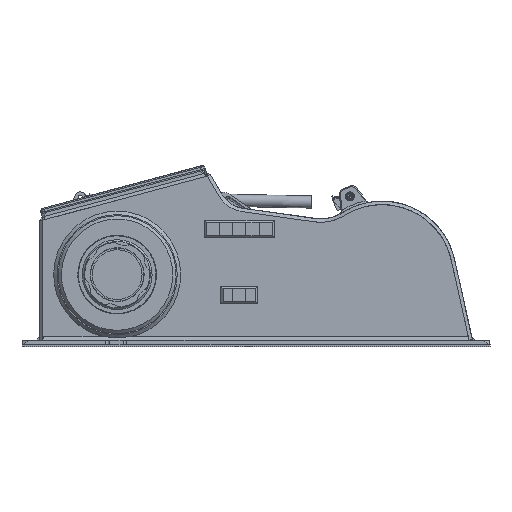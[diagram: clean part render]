
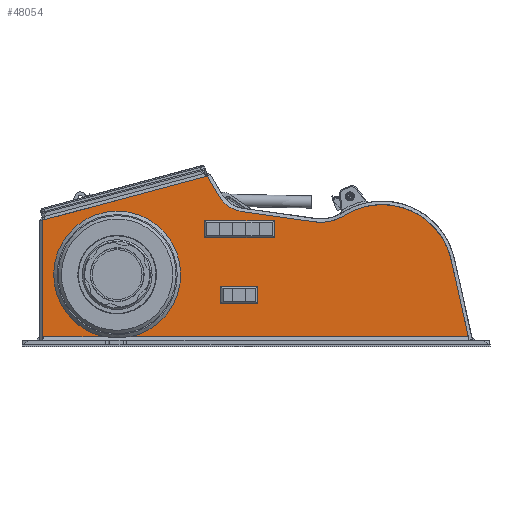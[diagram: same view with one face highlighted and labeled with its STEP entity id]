
A CAD part, left-side view. The second image highlights one B-rep face of the part: STEP entity #48054.
In plain terms, the highlighted planar face has unit normal (-1, 0, 0).
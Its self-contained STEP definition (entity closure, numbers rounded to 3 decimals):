
#2072=FACE_BOUND('',#5633,.T.);
#2073=FACE_BOUND('',#5634,.T.);
#2950=FACE_OUTER_BOUND('',#5632,.T.);
#5632=EDGE_LOOP('',(#32350,#32351,#32352,#32353,#32354,#32355,#32356,#32357,
#32358,#32359,#32360,#32361,#32362,#32363));
#5633=EDGE_LOOP('',(#32364,#32365,#32366,#32367));
#5634=EDGE_LOOP('',(#32368,#32369,#32370,#32371));
#8839=LINE('',#71969,#12811);
#8842=LINE('',#72012,#12814);
#9073=LINE('',#73229,#13045);
#9074=LINE('',#73230,#13046);
#9075=LINE('',#73232,#13047);
#9076=LINE('',#73234,#13048);
#9077=LINE('',#73236,#13049);
#9078=LINE('',#73238,#13050);
#9079=LINE('',#73240,#13051);
#9080=LINE('',#73246,#13052);
#9081=LINE('',#73248,#13053);
#9082=LINE('',#73250,#13054);
#9083=LINE('',#73251,#13055);
#9084=LINE('',#73254,#13056);
#9085=LINE('',#73256,#13057);
#9086=LINE('',#73258,#13058);
#9087=LINE('',#73259,#13059);
#12811=VECTOR('',#57524,10.);
#12814=VECTOR('',#57533,10.);
#13045=VECTOR('',#58142,10.);
#13046=VECTOR('',#58143,10.);
#13047=VECTOR('',#58144,10.);
#13048=VECTOR('',#58145,10.);
#13049=VECTOR('',#58146,10.);
#13050=VECTOR('',#58147,10.);
#13051=VECTOR('',#58148,10.);
#13052=VECTOR('',#58153,10.);
#13053=VECTOR('',#58154,10.);
#13054=VECTOR('',#58155,10.);
#13055=VECTOR('',#58156,10.);
#13056=VECTOR('',#58157,10.);
#13057=VECTOR('',#58158,10.);
#13058=VECTOR('',#58159,10.);
#13059=VECTOR('',#58160,10.);
#16470=CIRCLE('',#51092,75.);
#16471=CIRCLE('',#51095,100.);
#16472=CIRCLE('',#51097,162.5);
#16577=CIRCLE('',#51283,145.5);
#16578=CIRCLE('',#51284,145.5);
#19102=VERTEX_POINT('',#71946);
#19107=VERTEX_POINT('',#71966);
#19108=VERTEX_POINT('',#71968);
#19110=VERTEX_POINT('',#71994);
#19112=VERTEX_POINT('',#72011);
#19114=VERTEX_POINT('',#72158);
#19116=VERTEX_POINT('',#72178);
#19399=VERTEX_POINT('',#73228);
#19400=VERTEX_POINT('',#73231);
#19401=VERTEX_POINT('',#73233);
#19402=VERTEX_POINT('',#73235);
#19403=VERTEX_POINT('',#73237);
#19404=VERTEX_POINT('',#73239);
#19405=VERTEX_POINT('',#73241);
#19406=VERTEX_POINT('',#73244);
#19407=VERTEX_POINT('',#73245);
#19408=VERTEX_POINT('',#73247);
#19409=VERTEX_POINT('',#73249);
#19410=VERTEX_POINT('',#73252);
#19411=VERTEX_POINT('',#73253);
#19412=VERTEX_POINT('',#73255);
#19413=VERTEX_POINT('',#73257);
#23989=EDGE_CURVE('',#19107,#19108,#8839,.T.);
#23992=EDGE_CURVE('',#19108,#19110,#16470,.T.);
#23995=EDGE_CURVE('',#19110,#19112,#8842,.T.);
#23998=EDGE_CURVE('',#19112,#19114,#16471,.T.);
#24001=EDGE_CURVE('',#19114,#19116,#16472,.T.);
#24356=EDGE_CURVE('',#19399,#19102,#9073,.T.);
#24357=EDGE_CURVE('',#19116,#19102,#9074,.T.);
#24358=EDGE_CURVE('',#19400,#19107,#9075,.T.);
#24359=EDGE_CURVE('',#19401,#19400,#9076,.T.);
#24360=EDGE_CURVE('',#19402,#19401,#9077,.T.);
#24361=EDGE_CURVE('',#19402,#19403,#9078,.T.);
#24362=EDGE_CURVE('',#19403,#19404,#9079,.T.);
#24363=EDGE_CURVE('',#19404,#19405,#16577,.T.);
#24364=EDGE_CURVE('',#19405,#19399,#16578,.T.);
#24365=EDGE_CURVE('',#19406,#19407,#9080,.T.);
#24366=EDGE_CURVE('',#19407,#19408,#9081,.T.);
#24367=EDGE_CURVE('',#19408,#19409,#9082,.T.);
#24368=EDGE_CURVE('',#19409,#19406,#9083,.T.);
#24369=EDGE_CURVE('',#19410,#19411,#9084,.T.);
#24370=EDGE_CURVE('',#19411,#19412,#9085,.T.);
#24371=EDGE_CURVE('',#19412,#19413,#9086,.T.);
#24372=EDGE_CURVE('',#19413,#19410,#9087,.T.);
#32350=ORIENTED_EDGE('',*,*,#24356,.T.);
#32351=ORIENTED_EDGE('',*,*,#24357,.F.);
#32352=ORIENTED_EDGE('',*,*,#24001,.F.);
#32353=ORIENTED_EDGE('',*,*,#23998,.F.);
#32354=ORIENTED_EDGE('',*,*,#23995,.F.);
#32355=ORIENTED_EDGE('',*,*,#23992,.F.);
#32356=ORIENTED_EDGE('',*,*,#23989,.F.);
#32357=ORIENTED_EDGE('',*,*,#24358,.F.);
#32358=ORIENTED_EDGE('',*,*,#24359,.F.);
#32359=ORIENTED_EDGE('',*,*,#24360,.F.);
#32360=ORIENTED_EDGE('',*,*,#24361,.T.);
#32361=ORIENTED_EDGE('',*,*,#24362,.T.);
#32362=ORIENTED_EDGE('',*,*,#24363,.T.);
#32363=ORIENTED_EDGE('',*,*,#24364,.T.);
#32364=ORIENTED_EDGE('',*,*,#24365,.T.);
#32365=ORIENTED_EDGE('',*,*,#24366,.T.);
#32366=ORIENTED_EDGE('',*,*,#24367,.T.);
#32367=ORIENTED_EDGE('',*,*,#24368,.T.);
#32368=ORIENTED_EDGE('',*,*,#24369,.T.);
#32369=ORIENTED_EDGE('',*,*,#24370,.T.);
#32370=ORIENTED_EDGE('',*,*,#24371,.T.);
#32371=ORIENTED_EDGE('',*,*,#24372,.T.);
#43804=PLANE('',#51282);
#48054=ADVANCED_FACE('',(#2950,#2072,#2073),#43804,.F.);
#51092=AXIS2_PLACEMENT_3D('',#71995,#57528,#57529);
#51095=AXIS2_PLACEMENT_3D('',#72159,#57537,#57538);
#51097=AXIS2_PLACEMENT_3D('',#72179,#57542,#57543);
#51282=AXIS2_PLACEMENT_3D('',#73227,#58140,#58141);
#51283=AXIS2_PLACEMENT_3D('',#73242,#58149,#58150);
#51284=AXIS2_PLACEMENT_3D('',#73243,#58151,#58152);
#57524=DIRECTION('',(0.,-0.5,-0.866));
#57528=DIRECTION('center_axis',(-1.,0.,0.));
#57529=DIRECTION('ref_axis',(0.,-0.139,0.99));
#57533=DIRECTION('',(0.,-0.99,-0.139));
#57537=DIRECTION('center_axis',(-1.,0.,0.));
#57538=DIRECTION('ref_axis',(0.,0.534,0.846));
#57542=DIRECTION('center_axis',(1.,0.,0.));
#57543=DIRECTION('ref_axis',(0.,0.534,0.846));
#58140=DIRECTION('center_axis',(1.,0.,0.));
#58141=DIRECTION('ref_axis',(0.,1.,0.));
#58142=DIRECTION('',(0.,-1.,0.));
#58143=DIRECTION('',(0.,-0.216,-0.976));
#58144=DIRECTION('',(0.,-0.966,0.259));
#58145=DIRECTION('',(0.,0.,1.));
#58146=DIRECTION('',(0.,1.,0.));
#58147=DIRECTION('',(0.,0.,1.));
#58148=DIRECTION('',(0.,-1.,0.));
#58149=DIRECTION('center_axis',(1.,0.,0.));
#58150=DIRECTION('ref_axis',(0.,0.,-1.));
#58151=DIRECTION('center_axis',(1.,0.,0.));
#58152=DIRECTION('ref_axis',(0.,0.,-1.));
#58153=DIRECTION('',(0.,0.,1.));
#58154=DIRECTION('',(0.,-1.,0.));
#58155=DIRECTION('',(0.,0.,-1.));
#58156=DIRECTION('',(0.,1.,0.));
#58157=DIRECTION('',(0.,0.,1.));
#58158=DIRECTION('',(0.,-1.,0.));
#58159=DIRECTION('',(0.,0.,-1.));
#58160=DIRECTION('',(0.,1.,0.));
#71946=CARTESIAN_POINT('',(-220.5,9.774,22.));
#71966=CARTESIAN_POINT('',(-220.5,607.289,389.939));
#71968=CARTESIAN_POINT('',(-220.5,581.352,345.015));
#71969=CARTESIAN_POINT('',(-220.5,607.289,389.939));
#71994=CARTESIAN_POINT('',(-220.5,526.838,308.245));
#71995=CARTESIAN_POINT('Origin',(-220.5,516.4,382.515));
#72011=CARTESIAN_POINT('',(-220.5,361.253,284.973));
#72012=CARTESIAN_POINT('',(-220.5,526.838,308.245));
#72158=CARTESIAN_POINT('',(-220.5,293.972,299.429));
#72159=CARTESIAN_POINT('Origin',(-220.5,347.336,384.));
#72178=CARTESIAN_POINT('',(-220.5,48.608,197.171));
#72179=CARTESIAN_POINT('Origin',(-220.5,207.256,162.));
#73227=CARTESIAN_POINT('Origin',(-220.5,514.425,163.155));
#73228=CARTESIAN_POINT('',(-220.5,782.279,22.));
#73229=CARTESIAN_POINT('',(-220.5,748.727,22.));
#73230=CARTESIAN_POINT('',(-220.5,48.608,197.171));
#73231=CARTESIAN_POINT('',(-220.5,984.,289.));
#73232=CARTESIAN_POINT('',(-220.5,984.,289.));
#73233=CARTESIAN_POINT('',(-220.5,984.,14.));
#73234=CARTESIAN_POINT('',(-220.5,984.,14.));
#73235=CARTESIAN_POINT('',(-220.5,983.029,14.));
#73236=CARTESIAN_POINT('',(-220.5,8.,14.));
#73237=CARTESIAN_POINT('',(-220.5,983.029,22.));
#73238=CARTESIAN_POINT('',(-220.5,983.029,88.577));
#73239=CARTESIAN_POINT('',(-220.5,845.721,22.));
#73240=CARTESIAN_POINT('',(-220.5,748.727,22.));
#73241=CARTESIAN_POINT('',(-220.5,814.,309.5));
#73242=CARTESIAN_POINT('Origin',(-220.5,814.,164.));
#73243=CARTESIAN_POINT('Origin',(-220.5,814.,164.));
#73244=CARTESIAN_POINT('',(-220.5,614.,248.));
#73245=CARTESIAN_POINT('',(-220.5,614.,288.));
#73246=CARTESIAN_POINT('',(-220.5,614.,225.577));
#73247=CARTESIAN_POINT('',(-220.5,454.,288.));
#73248=CARTESIAN_POINT('',(-220.5,484.213,288.));
#73249=CARTESIAN_POINT('',(-220.5,454.,248.));
#73250=CARTESIAN_POINT('',(-220.5,454.,205.577));
#73251=CARTESIAN_POINT('',(-220.5,564.213,248.));
#73252=CARTESIAN_POINT('',(-220.5,576.5,98.));
#73253=CARTESIAN_POINT('',(-220.5,576.5,138.));
#73254=CARTESIAN_POINT('',(-220.5,576.5,150.577));
#73255=CARTESIAN_POINT('',(-220.5,491.5,138.));
#73256=CARTESIAN_POINT('',(-220.5,502.963,138.));
#73257=CARTESIAN_POINT('',(-220.5,491.5,98.));
#73258=CARTESIAN_POINT('',(-220.5,491.5,130.577));
#73259=CARTESIAN_POINT('',(-220.5,545.463,98.));
